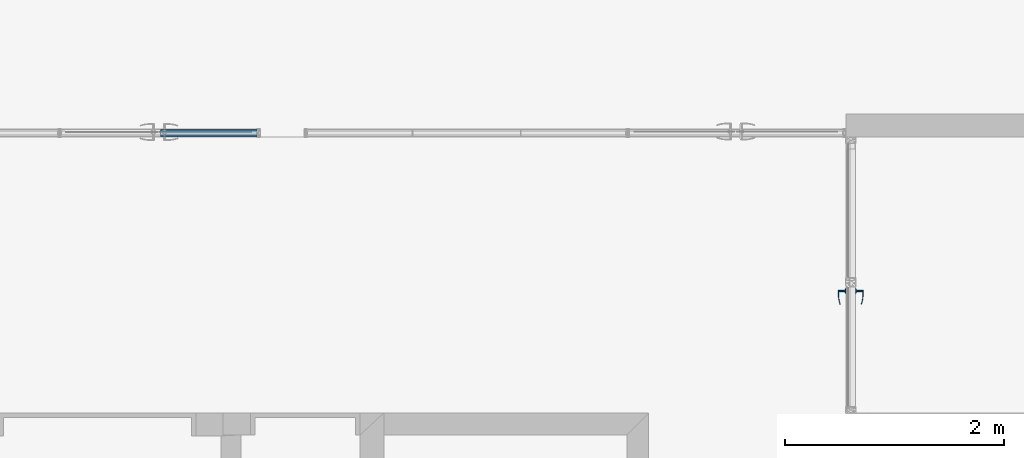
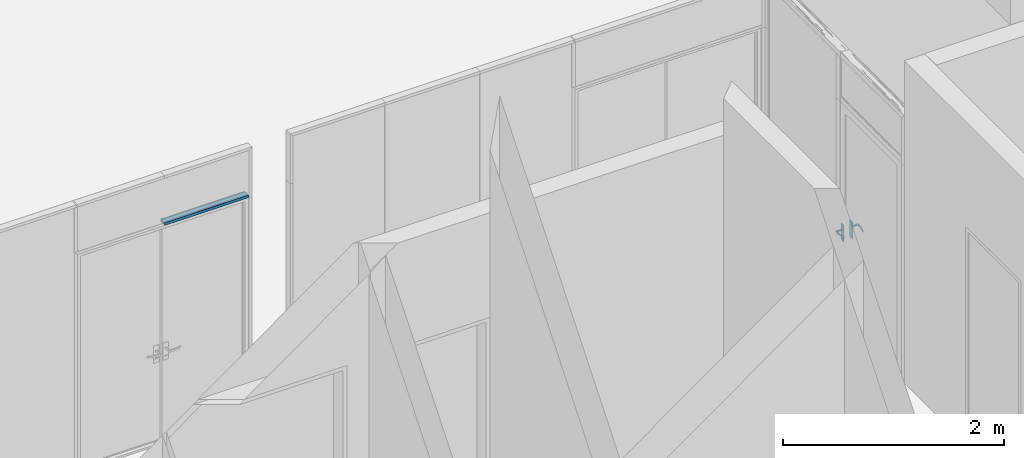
# One storey, part 53 of 62: 3 building element parts, 4 elements without a shape of their own.
"""IFC2X3 building model written with IfcOpenShell, lengths in millimetres."""

from ifc_helpers import new_model, entity, si_unit, converted_unit, derived_unit, money_unit, direction, frame, origin_with_axes, place, context, subcontext, project, spatial, open_shell, faceted_brep, surface_model, material, type_object, element, aggregate, save


model = new_model("IFC2X3")

# Units and contexts
model_context = context("Model", 3, precision=0.01, world=origin_with_axes(), true_north=direction((0.0, 1.0)))
body_context = subcontext(model_context, "Body", "Model", "MODEL_VIEW")
ifc_project = project(units=[si_unit("LENGTHUNIT", "METRE", prefix="MILLI"), si_unit("AREAUNIT", "SQUARE_METRE"), si_unit("VOLUMEUNIT", "CUBIC_METRE"), converted_unit("PLANEANGLEUNIT", "DEGREE", entity("IfcPlaneAngleMeasure", 0.0174532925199), si_unit("PLANEANGLEUNIT", "RADIAN"), dimensions=[0, 0, 0, 0, 0, 0, 0]), si_unit("SOLIDANGLEUNIT", "STERADIAN"), money_unit("EUR"), converted_unit("TIMEUNIT", "Year", entity("IfcTimeMeasure", 31556926.0), si_unit("TIMEUNIT", "SECOND"), dimensions=[0, 0, 1, 0, 0, 0, 0]), si_unit("MASSUNIT", "GRAM", prefix="KILO"), si_unit("THERMODYNAMICTEMPERATUREUNIT", "DEGREE_CELSIUS"), si_unit("LUMINOUSINTENSITYUNIT", "LUMEN"), si_unit("ENERGYUNIT", "JOULE", prefix="MEGA"), derived_unit("THERMALCONDUCTANCEUNIT", [(si_unit("POWERUNIT", "WATT"), 1), (si_unit("LENGTHUNIT", "METRE"), -1), (si_unit("THERMODYNAMICTEMPERATUREUNIT", "KELVIN"), -1)]), derived_unit("SPECIFICHEATCAPACITYUNIT", [(si_unit("ENERGYUNIT", "JOULE"), 1), (si_unit("MASSUNIT", "GRAM", prefix="KILO"), -1), (si_unit("THERMODYNAMICTEMPERATUREUNIT", "KELVIN"), -1)]), derived_unit("MASSDENSITYUNIT", [(si_unit("MASSUNIT", "GRAM", prefix="KILO"), 1), (si_unit("VOLUMEUNIT", "CUBIC_METRE"), -1)])], contexts=[model_context])

# Site, building, storey
site_placement = place(None, origin_with_axes())
site = spatial("IfcSite", under=ifc_project, at=site_placement, Name="Puškini 31, Narva", CompositionType="ELEMENT")
building_placement = place(site_placement, origin_with_axes())
building = spatial("IfcBuilding", under=site, at=building_placement, Name="Narva Riigigümnaasium", CompositionType="ELEMENT")
storey_placement = place(building_placement, frame((0.0, 0.0, 660.0), z_axis=(0.0, 0.0, 1.0), x_axis=(1.0, 0.0, 0.0)))
storey = spatial("IfcBuildingStorey", under=building, at=storey_placement, Name="2.korrus +0.66", CompositionType="ELEMENT", Elevation=660.0)

# Curtain wall, door, building element part
curtain_wall_type = type_object("IfcCurtainWallType", Name="Curtain Wall Type", PredefinedType="NOTDEFINED")
curtain_wall_1_placement = place(storey_placement, frame((47544.998162, 221675.502168, -2.45869393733e-05), z_axis=(0.0, 0.0, 1.0), x_axis=(1.0, 0.0, 0.0)))
curtain_wall_1 = element("IfcCurtainWall", 1, at=curtain_wall_1_placement, inside=storey, type_object=curtain_wall_type, Name="G-SKLF-51")
door_style = type_object("IfcDoorStyle", Name="1087 x 2349 x 20", ConstructionType="NOTDEFINED", OperationType="NOTDEFINED", ParameterTakesPrecedence=False, Sizeable=False)
door_placement = place(curtain_wall_1_placement, frame((0.0, 0.0, 800.000008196), z_axis=(0.0, 0.0, 1.0), x_axis=(-4.28853941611e-06, 0.999999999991, 0.0)))
door = element("IfcDoor", 2, at=door_placement, type_object=door_style, Name="G-SKLF-51-U1", ObjectType="DOOR")
aggregate(curtain_wall_1, [door])
ifc_material_1 = material(Name="ET-07_Teras - Roostevaba")
building_element_part_1_placement = place(door_placement, origin_with_axes())
building_element_part_1 = element("IfcBuildingElementPart", 3, at=building_element_part_1_placement, material=ifc_material_1, Name="ET-07_Teras - Roostevaba", context=body_context, shape_type="SurfaceModel", body=[
    faceted_brep([(748.002197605, -45.0, 279.999992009), (691.002197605, -45.0, 279.999992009), (691.002197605, -48.0, 279.999992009), (748.002197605, -48.0, 279.999992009), (748.002197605, -45.0, 89.9999920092), (691.002197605, -45.0, 89.9999920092), (691.002197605, -48.0, 89.9999920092), (748.002197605, -48.0, 89.9999920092)], [[[0, 1, 2, 3]], [[0, 4, 5, 1]], [[1, 5, 6, 2]], [[3, 2, 6, 7]], [[4, 0, 3, 7]], [[5, 4, 7, 6]]]),
    surface_model("IfcShellBasedSurfaceModel", [(719.502197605, -109.0, 209.999992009), (728.162451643, -109.0, 214.999992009), (728.162451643, -116.0, 214.999992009), (719.502197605, -116.0, 209.999992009), (694.502197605, -109.0, 209.999992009), (694.502197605, -109.0, 229.999992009), (719.502197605, -109.0, 229.999992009), (728.162451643, -109.0, 224.999992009), (728.162451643, -116.0, 224.999992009), (719.502197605, -116.0, 229.999992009), (694.502197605, -116.0, 229.999992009), (694.502197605, -116.0, 209.999992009)], [open_shell([[[0, 1, 2, 3]], [[0, 4, 5, 6, 7, 1]], [[1, 7, 8, 2]], [[3, 2, 8, 9, 10, 11]], [[4, 0, 3, 11]], [[6, 5, 10, 9]], [[7, 6, 9, 8]]])]),
    surface_model("IfcShellBasedSurfaceModel", [(694.502197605, -109.0, 229.999992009), (681.403914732, -109.0, 229.607292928), (681.098288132, -116.0, 229.607292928), (694.502197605, -109.0, 209.999992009), (681.403914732, -109.0, 210.392691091), (654.392481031, -113.663544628, 228.821894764), (694.502197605, -116.0, 229.999992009), (694.502197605, -116.0, 209.999992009), (655.307034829, -106.716818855, 211.178089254), (655.307034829, -106.716818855, 228.821894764), (654.392481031, -113.663544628, 211.178089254), (681.098288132, -116.0, 210.392691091), (629.508453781, -102.167832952, 211.963487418), (629.508453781, -102.167832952, 228.036496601), (627.991933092, -109.008415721, 228.036496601), (627.991933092, -109.008415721, 211.963487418), (604.204514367, -95.3876628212, 212.748885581), (604.204514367, -95.3876628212, 227.251098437), (602.097568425, -102.07004162, 227.251098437), (602.097568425, -102.07004162, 212.748885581), (596.331639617, -92.5221707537, 212.999992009), (596.331639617, -92.5221707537, 226.999992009), (594.040993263, -99.1376880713, 226.999992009), (594.040993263, -99.1376880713, 212.999992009)], [open_shell([[[0, 1, 2]], [[0, 3, 4, 1]], [[1, 5, 2]], [[0, 2, 6]], [[4, 3, 7]], [[1, 4, 8, 9]], [[1, 9, 5]], [[2, 5, 10, 11]], [[6, 2, 11, 7]], [[4, 7, 11]], [[8, 4, 11]], [[9, 8, 12, 13]], [[9, 14, 5]], [[5, 14, 15, 10]], [[8, 11, 10]], [[12, 8, 10]], [[13, 12, 16, 17]], [[9, 13, 14]], [[14, 18, 19, 15]], [[12, 10, 15]], [[16, 12, 15]], [[17, 16, 20, 21]], [[13, 17, 18]], [[13, 18, 14]], [[18, 22, 23, 19]], [[16, 15, 19]], [[20, 16, 19]], [[21, 20, 23, 22]], [[17, 21, 22]], [[17, 22, 18]], [[20, 19, 23]]])]),
    faceted_brep([(715.793993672, -58.0, 208.587313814), (707.502197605, -58.0, 219.999992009), (706.502197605, -48.0, 219.999992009), (715.484976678, -48.0, 207.636257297), (729.210401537, -58.0, 212.946568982), (729.210401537, -58.0, 227.053415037), (715.793993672, -58.0, 231.412670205), (715.484976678, -48.0, 232.363726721), (730.019418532, -48.0, 227.641200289), (730.019418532, -48.0, 212.358783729)], [[[0, 1, 2, 3]], [[1, 0, 4, 5, 6]], [[1, 6, 7, 2]], [[2, 7, 8, 9, 3]], [[4, 0, 3, 9]], [[5, 4, 9, 8]], [[6, 5, 8, 7]]]),
    faceted_brep([(713.321857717, -52.0, 105.978861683), (699.502197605, -52.0, 124.999992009), (697.502197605, -48.0, 124.999992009), (712.703823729, -48.0, 104.076748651), (735.682537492, -52.0, 113.244286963), (735.682537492, -52.0, 136.755697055), (713.321857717, -52.0, 144.021122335), (712.703823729, -48.0, 145.923235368), (737.300571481, -48.0, 137.93126756), (737.300571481, -48.0, 112.068716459)], [[[0, 1, 2, 3]], [[1, 0, 4, 5, 6]], [[1, 6, 7, 2]], [[2, 7, 8, 9, 3]], [[4, 0, 3, 9]], [[5, 4, 9, 8]], [[6, 5, 8, 7]]]),
    faceted_brep([(717.339078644, -54.0, 127.342596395), (712.502197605, -54.0, 133.999992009), (711.502197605, -52.0, 133.999992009), (717.03006165, -52.0, 126.391539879), (725.165316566, -54.0, 129.885495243), (725.165316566, -54.0, 138.114488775), (717.339078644, -54.0, 140.657387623), (717.03006165, -52.0, 141.60844414), (725.97433356, -52.0, 138.702274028), (725.97433356, -52.0, 129.297709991)], [[[0, 1, 2, 3]], [[1, 0, 4, 5, 6]], [[1, 6, 7, 2]], [[2, 7, 8, 9, 3]], [[4, 0, 3, 9]], [[5, 4, 9, 8]], [[6, 5, 8, 7]]]),
    faceted_brep([(719.502197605, -58.0, 229.999992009), (709.991632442, -58.0, 223.090161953), (709.991632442, -109.0, 223.090161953), (719.502197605, -109.0, 229.999992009), (729.012762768, -58.0, 223.090161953), (725.380050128, -58.0, 211.909822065), (713.624345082, -58.0, 211.909822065), (713.624345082, -109.0, 211.909822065), (725.380050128, -109.0, 211.909822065), (729.012762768, -109.0, 223.090161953)], [[[0, 1, 2, 3]], [[0, 4, 5, 6, 1]], [[1, 6, 7, 2]], [[3, 2, 7, 8, 9]], [[4, 0, 3, 9]], [[5, 4, 9, 8]], [[6, 5, 8, 7]]]),
    faceted_brep([(748.002197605, 45.0, 279.999992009), (748.002197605, 48.0, 279.999992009), (691.002197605, 48.0, 279.999992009), (691.002197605, 45.0, 279.999992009), (748.002197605, 45.0, 89.9999920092), (748.002197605, 48.0, 89.9999920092), (691.002197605, 48.0, 89.9999920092), (691.002197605, 45.0, 89.9999920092)], [[[0, 1, 2, 3]], [[4, 5, 1, 0]], [[1, 5, 6, 2]], [[3, 2, 6, 7]], [[0, 3, 7, 4]], [[7, 6, 5, 4]]]),
    surface_model("IfcShellBasedSurfaceModel", [(719.502197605, 109.0, 209.999992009), (719.502197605, 116.0, 209.999992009), (728.162451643, 116.0, 214.999992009), (728.162451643, 109.0, 214.999992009), (694.502197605, 109.0, 209.999992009), (694.502197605, 116.0, 209.999992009), (694.502197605, 116.0, 229.999992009), (719.502197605, 116.0, 229.999992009), (728.162451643, 116.0, 224.999992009), (728.162451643, 109.0, 224.999992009), (719.502197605, 109.0, 229.999992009), (694.502197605, 109.0, 229.999992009)], [open_shell([[[0, 1, 2, 3]], [[4, 5, 1, 0]], [[1, 5, 6, 7, 8, 2]], [[3, 2, 8, 9]], [[0, 3, 9, 10, 11, 4]], [[10, 7, 6, 11]], [[9, 8, 7, 10]]])]),
    surface_model("IfcShellBasedSurfaceModel", [(694.502197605, 109.0, 229.999992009), (681.098288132, 116.0, 229.607292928), (681.403914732, 109.0, 229.607292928), (694.502197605, 116.0, 229.999992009), (654.392481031, 113.663544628, 228.821894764), (681.403914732, 109.0, 210.392691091), (694.502197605, 109.0, 209.999992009), (694.502197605, 116.0, 209.999992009), (681.098288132, 116.0, 210.392691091), (654.392481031, 113.663544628, 211.178089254), (655.307034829, 106.716818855, 228.821894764), (655.307034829, 106.716818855, 211.178089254), (627.991933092, 109.008415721, 211.963487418), (627.991933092, 109.008415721, 228.036496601), (629.508453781, 102.167832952, 228.036496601), (629.508453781, 102.167832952, 211.963487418), (602.097568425, 102.07004162, 212.748885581), (602.097568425, 102.07004162, 227.251098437), (604.204514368, 95.3876628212, 227.251098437), (604.204514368, 95.3876628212, 212.748885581), (594.040993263, 99.1376880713, 212.999992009), (594.040993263, 99.1376880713, 226.999992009), (596.331639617, 92.5221707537, 226.999992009), (596.331639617, 92.5221707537, 212.999992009)], [open_shell([[[0, 1, 2]], [[0, 3, 1]], [[2, 1, 4]], [[0, 2, 5, 6]], [[3, 7, 8, 1]], [[1, 8, 9, 4]], [[2, 4, 10]], [[2, 10, 11, 5]], [[5, 7, 6]], [[5, 8, 7]], [[11, 9, 8]], [[4, 9, 12, 13]], [[10, 4, 13]], [[10, 14, 15, 11]], [[11, 8, 5]], [[15, 9, 11]], [[15, 12, 9]], [[13, 12, 16, 17]], [[10, 13, 14]], [[14, 18, 19, 15]], [[19, 12, 15]], [[19, 16, 12]], [[17, 16, 20, 21]], [[14, 13, 17]], [[14, 17, 18]], [[18, 22, 23, 19]], [[23, 16, 19]], [[23, 20, 16]], [[22, 21, 20, 23]], [[18, 17, 21]], [[18, 21, 22]]])]),
    faceted_brep([(715.793993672, 58.0, 208.587313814), (715.484976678, 48.0, 207.636257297), (706.502197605, 48.0, 219.999992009), (707.502197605, 58.0, 219.999992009), (729.210401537, 58.0, 212.946568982), (730.019418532, 48.0, 212.358783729), (730.019418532, 48.0, 227.641200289), (715.484976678, 48.0, 232.363726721), (715.793993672, 58.0, 231.412670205), (729.210401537, 58.0, 227.053415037)], [[[0, 1, 2, 3]], [[4, 5, 1, 0]], [[2, 1, 5, 6, 7]], [[3, 2, 7, 8]], [[3, 8, 9, 4, 0]], [[9, 6, 5, 4]], [[8, 7, 6, 9]]]),
    faceted_brep([(713.321857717, 52.0, 105.978861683), (712.703823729, 48.0, 104.076748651), (697.502197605, 48.0, 124.999992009), (699.502197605, 52.0, 124.999992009), (735.682537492, 52.0, 113.244286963), (737.300571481, 48.0, 112.068716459), (737.300571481, 48.0, 137.93126756), (712.703823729, 48.0, 145.923235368), (713.321857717, 52.0, 144.021122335), (735.682537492, 52.0, 136.755697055)], [[[0, 1, 2, 3]], [[4, 5, 1, 0]], [[2, 1, 5, 6, 7]], [[3, 2, 7, 8]], [[3, 8, 9, 4, 0]], [[9, 6, 5, 4]], [[8, 7, 6, 9]]]),
    faceted_brep([(717.339078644, 54.0, 127.342596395), (717.03006165, 52.0, 126.391539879), (711.502197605, 52.0, 133.999992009), (712.502197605, 54.0, 133.999992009), (725.165316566, 54.0, 129.885495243), (725.97433356, 52.0, 129.297709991), (725.97433356, 52.0, 138.702274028), (717.03006165, 52.0, 141.60844414), (717.339078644, 54.0, 140.657387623), (725.165316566, 54.0, 138.114488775)], [[[0, 1, 2, 3]], [[4, 5, 1, 0]], [[2, 1, 5, 6, 7]], [[3, 2, 7, 8]], [[3, 8, 9, 4, 0]], [[9, 6, 5, 4]], [[8, 7, 6, 9]]]),
    faceted_brep([(719.502197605, 58.0, 229.999992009), (719.502197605, 109.0, 229.999992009), (709.991632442, 109.0, 223.090161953), (709.991632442, 58.0, 223.090161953), (729.012762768, 58.0, 223.090161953), (729.012762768, 109.0, 223.090161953), (725.380050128, 109.0, 211.909822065), (713.624345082, 109.0, 211.909822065), (713.624345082, 58.0, 211.909822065), (725.380050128, 58.0, 211.909822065)], [[[0, 1, 2, 3]], [[4, 5, 1, 0]], [[1, 5, 6, 7, 2]], [[3, 2, 7, 8]], [[0, 3, 8, 9, 4]], [[9, 6, 5, 4]], [[8, 7, 6, 9]]]),
])
aggregate(door, [building_element_part_1])

# Curtain wall, proxy, building element parts
curtain_wall_2_placement = place(storey_placement, frame((41241.6, 223837.000007, -1.99739158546e-06), z_axis=(0.0, 0.0, 1.0), x_axis=(1.0, 0.0, 0.0)))
curtain_wall_2 = element("IfcCurtainWall", 4, at=curtain_wall_2_placement, inside=storey, type_object=curtain_wall_type, Name="G-SKLF-53")
building_element_proxy_type = type_object("IfcBuildingElementProxyType", Name="30 x 27", PredefinedType="NOTDEFINED")
proxy_placement = place(curtain_wall_2_placement, frame((0.0, 0.0, 2400.0), z_axis=(1.0, 0.0, 0.0), x_axis=(0.0, 0.0, 1.0)))
proxy = element("IfcBuildingElementProxy", 5, at=proxy_placement, type_object=building_element_proxy_type, Name="RF PÜSTRAAM-323")
aggregate(curtain_wall_2, [proxy])
ifc_material_2 = material(Name="Klaasvill")
building_element_part_2_placement = place(proxy_placement, origin_with_axes())
building_element_part_2 = element("IfcBuildingElementPart", 6, at=building_element_part_2_placement, material=ifc_material_2, Name="Klaasvill", context=body_context, shape_type="Brep", body=[
    faceted_brep([(7.49999990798, -20.000000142, 0.0), (7.49999990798, -20.000000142, 880.399980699), (13.8499999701, -20.000000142, 880.399980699), (13.8499999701, -20.000000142, 0.0), (7.49999990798, -34.0161444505, 0.0), (7.49999990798, -34.0161444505, 880.399980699), (13.8499999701, -34.0161444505, 880.399980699), (13.8499999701, -34.0161444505, 0.0)], [[[0, 1, 2, 3]], [[4, 5, 1, 0]], [[1, 5, 6, 2]], [[3, 2, 6, 7]], [[0, 3, 7, 4]], [[7, 6, 5, 4]]]),
    faceted_brep([(24.987414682, -34.0161444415, 0.0), (24.987414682, -34.0161444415, 880.399980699), (25.004489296, -32.0307503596, 880.399980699), (25.004489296, -32.0307503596, 0.0), (28.5126239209, -34.0161444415, 0.0), (28.5126239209, -34.0161444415, 880.399980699), (28.7655837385, -33.0385325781, 880.399980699), (28.4955493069, -32.0307503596, 880.399980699), (27.75780152, -31.2930025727, 880.399980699), (26.7500193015, -31.0229681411, 880.399980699), (25.742237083, -31.2930025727, 880.399980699), (25.742237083, -31.2930025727, 0.0), (26.7500193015, -31.0229681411, 0.0), (27.75780152, -31.2930025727, 0.0), (28.4955493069, -32.0307503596, 0.0), (28.7655837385, -33.0385325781, 0.0)], [[[0, 1, 2, 3]], [[4, 5, 1, 0]], [[1, 5, 6, 7, 8, 9, 10, 2]], [[3, 2, 10, 11]], [[0, 3, 11, 12, 13, 14, 15, 4]], [[15, 6, 5, 4]], [[14, 7, 6, 15]], [[13, 8, 7, 14]], [[12, 9, 8, 13]], [[11, 10, 9, 12]]]),
    faceted_brep([(7.49999990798, 19.9999997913, 0.0), (7.49999990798, 19.9999997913, 880.399980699), (7.49999990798, 34.0161445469, 880.399980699), (7.49999990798, 34.0161445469, 0.0), (13.8499999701, 19.9999997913, 0.0), (13.8499999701, 19.9999997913, 880.399980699), (13.8499999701, 34.0161445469, 880.399980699), (13.8499999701, 34.0161445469, 0.0)], [[[0, 1, 2, 3]], [[4, 5, 1, 0]], [[1, 5, 6, 2]], [[3, 2, 6, 7]], [[0, 3, 7, 4]], [[7, 6, 5, 4]]]),
    faceted_brep([(25.004489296, 32.0307503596, 0.0), (25.004489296, 32.0307503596, 880.399980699), (24.987414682, 34.0161444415, 880.399980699), (24.987414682, 34.0161444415, 0.0), (25.742237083, 31.2930025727, 0.0), (25.742237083, 31.2930025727, 880.399980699), (26.7500193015, 31.0229681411, 880.399980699), (27.75780152, 31.2930025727, 880.399980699), (28.4955493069, 32.0307503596, 880.399980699), (28.7655837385, 33.0385325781, 880.399980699), (28.5126239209, 34.0161444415, 880.399980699), (28.5126239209, 34.0161444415, 0.0), (28.7655837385, 33.0385325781, 0.0), (28.4955493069, 32.0307503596, 0.0), (27.75780152, 31.2930025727, 0.0), (26.7500193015, 31.0229681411, 0.0)], [[[0, 1, 2, 3]], [[4, 5, 1, 0]], [[1, 5, 6, 7, 8, 9, 10, 2]], [[3, 2, 10, 11]], [[0, 3, 11, 12, 13, 14, 15, 4]], [[15, 6, 5, 4]], [[14, 7, 6, 15]], [[13, 8, 7, 14]], [[12, 9, 8, 13]], [[11, 10, 9, 12]]]),
])
ifc_material_3 = material(Name="Teras RAL7012")
building_element_part_3_placement = place(proxy_placement, origin_with_axes())
building_element_part_3 = element("IfcBuildingElementPart", 7, at=building_element_part_3_placement, material=ifc_material_3, Name="Teras RAL7012", context=body_context, shape_type="Brep", body=[
    faceted_brep([(0.0, 17.0000000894, 0.0), (0.0, 17.0000000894, 880.399980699), (29.5999996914, 17.0000000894, 880.399980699), (29.5999996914, 17.0000000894, 0.0), (0.0, -17.0000000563, 0.0), (0.0, -17.0000000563, 880.399980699), (29.5999996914, -17.0000000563, 880.399980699), (1.9999999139, -15.0000001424, 880.399980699), (1.9999999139, 15.0000001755, 880.399980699), (18.7999996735, 15.0000001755, 880.399980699), (18.7999996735, -15.0000001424, 880.399980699), (29.5999996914, -17.0000000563, 0.0), (1.9999999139, -15.0000001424, 0.0), (18.7999996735, -15.0000001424, 0.0), (18.7999996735, 15.0000001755, 0.0), (1.9999999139, 15.0000001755, 0.0)], [[[0, 1, 2, 3]], [[4, 5, 1, 0]], [[1, 5, 6, 2], [7, 8, 9, 10]], [[3, 2, 6, 11]], [[0, 3, 11, 4], [12, 13, 14, 15]], [[11, 6, 5, 4]], [[15, 8, 7, 12]], [[14, 9, 8, 15]], [[13, 10, 9, 14]], [[12, 7, 10, 13]]]),
    faceted_brep([(0.0, -17.0, 0.0), (0.0, -17.0, 880.399980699), (29.5999996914, -17.0000000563, 880.399980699), (29.5999996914, -17.0000000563, 0.0), (0.0, -37.0, 0.0), (0.0, -37.0, 880.399980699), (30.0000193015, -37.0, 880.399980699), (30.0000193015, -34.0161444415, 880.399980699), (28.5126239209, -34.0161444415, 880.399980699), (24.987414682, -34.0161444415, 880.399980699), (13.8499999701, -34.0161444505, 880.399980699), (7.49999999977, -34.0161444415, 880.399980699), (7.49999999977, -20.0, 880.399980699), (13.8499999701, -20.000000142, 880.399980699), (30.0000193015, -20.0, 880.399980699), (30.0000193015, -17.0, 880.399980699), (30.0000193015, -17.0, 0.0), (30.0000193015, -20.0, 0.0), (13.8499999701, -20.000000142, 0.0), (7.49999999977, -20.0, 0.0), (7.49999999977, -34.0161444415, 0.0), (13.8499999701, -34.0161444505, 0.0), (24.987414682, -34.0161444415, 0.0), (28.5126239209, -34.0161444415, 0.0), (30.0000193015, -34.0161444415, 0.0), (30.0000193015, -37.0, 0.0)], [[[0, 1, 2, 3]], [[4, 5, 1, 0]], [[1, 5, 6, 7, 8, 9, 10, 11, 12, 13, 14, 15, 2]], [[3, 2, 15, 16]], [[0, 3, 16, 17, 18, 19, 20, 21, 22, 23, 24, 25, 4]], [[25, 6, 5, 4]], [[24, 7, 6, 25]], [[23, 8, 7, 24]], [[22, 9, 8, 23]], [[21, 10, 9, 22]], [[20, 11, 10, 21]], [[19, 12, 11, 20]], [[18, 13, 12, 19]], [[17, 14, 13, 18]], [[16, 15, 14, 17]]]),
    faceted_brep([(0.0, 17.0, 0.0), (0.0, 17.0, 880.399980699), (0.0, 37.0, 880.399980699), (0.0, 37.0, 0.0), (29.5999996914, 17.0000000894, 0.0), (29.5999996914, 17.0000000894, 880.399980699), (30.0000193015, 17.0, 880.399980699), (30.0000193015, 20.0, 880.399980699), (13.8499999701, 19.9999997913, 880.399980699), (7.49999999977, 20.0, 880.399980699), (7.49999999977, 34.0161444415, 880.399980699), (13.8499999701, 34.0161445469, 880.399980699), (24.987414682, 34.0161444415, 880.399980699), (28.5126239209, 34.0161444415, 880.399980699), (30.0000193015, 34.0161444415, 880.399980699), (30.0000193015, 37.0, 880.399980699), (30.0000193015, 37.0, 0.0), (30.0000193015, 34.0161444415, 0.0), (28.5126239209, 34.0161444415, 0.0), (24.987414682, 34.0161444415, 0.0), (13.8499999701, 34.0161445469, 0.0), (7.49999999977, 34.0161444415, 0.0), (7.49999999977, 20.0, 0.0), (13.8499999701, 19.9999997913, 0.0), (30.0000193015, 20.0, 0.0), (30.0000193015, 17.0, 0.0)], [[[0, 1, 2, 3]], [[4, 5, 1, 0]], [[1, 5, 6, 7, 8, 9, 10, 11, 12, 13, 14, 15, 2]], [[3, 2, 15, 16]], [[0, 3, 16, 17, 18, 19, 20, 21, 22, 23, 24, 25, 4]], [[25, 6, 5, 4]], [[24, 7, 6, 25]], [[23, 8, 7, 24]], [[22, 9, 8, 23]], [[21, 10, 9, 22]], [[20, 11, 10, 21]], [[19, 12, 11, 20]], [[18, 13, 12, 19]], [[17, 14, 13, 18]], [[16, 15, 14, 17]]]),
])
aggregate(proxy, [building_element_part_2, building_element_part_3])

save(model, "model.ifc")
